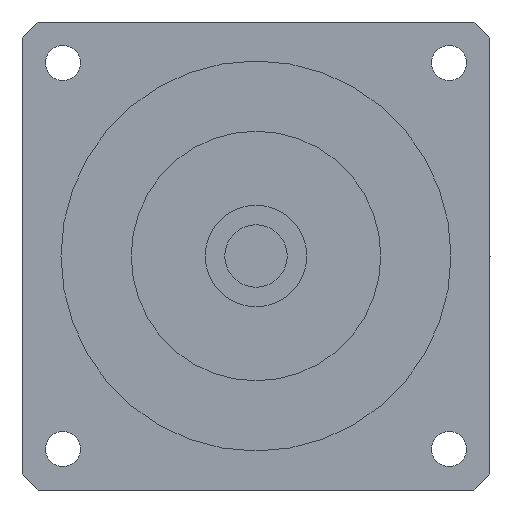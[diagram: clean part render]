
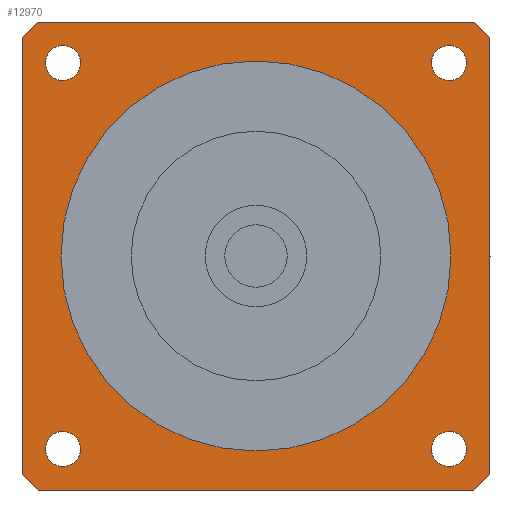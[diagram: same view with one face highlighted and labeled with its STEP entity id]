
A CAD part, left-side view. The second image highlights one B-rep face of the part: STEP entity #12970.
In plain terms, the highlighted planar face has unit normal (-1, 0, 0) as drawn and (0, 0, -1) by its records, which use the part's own axes.
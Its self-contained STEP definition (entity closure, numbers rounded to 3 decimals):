
#8790=CARTESIAN_POINT('',(24.749,22.499,-41.5));
#8800=VERTEX_POINT('',#8790);
#8830=CARTESIAN_POINT('',(24.749,24.749,-41.5));
#8840=DIRECTION('',(0.,0.,-1.));
#8850=DIRECTION('',(0.,1.,0.));
#8860=AXIS2_PLACEMENT_3D('',#8830,#8840,#8850);
#8870=CIRCLE('',#8860,2.25);
#8880=CARTESIAN_POINT('',(24.749,26.999,-41.5));
#8890=VERTEX_POINT('',#8880);
#8900=EDGE_CURVE('',#8890,#8800,#8870,.T.);
#9250=CARTESIAN_POINT('',(-22.499,24.749,-41.5));
#9260=VERTEX_POINT('',#9250);
#9290=CARTESIAN_POINT('',(-24.749,24.749,-41.5));
#9300=DIRECTION('',(0.,0.,-1.));
#9310=DIRECTION('',(-1.,0.,0.));
#9320=AXIS2_PLACEMENT_3D('',#9290,#9300,#9310);
#9330=CIRCLE('',#9320,2.25);
#9340=CARTESIAN_POINT('',(-26.999,24.749,-41.5));
#9350=VERTEX_POINT('',#9340);
#9360=EDGE_CURVE('',#9350,#9260,#9330,.T.);
#11480=CARTESIAN_POINT('',(25.,0.,-41.5));
#11490=VERTEX_POINT('',#11480);
#11520=CARTESIAN_POINT('',(0.,0.,
-41.5));
#11530=DIRECTION('',(0.,0.,1.));
#11540=DIRECTION('',(0.,1.,0.));
#11550=AXIS2_PLACEMENT_3D('',#11520,#11530,#11540);
#11560=CIRCLE('',#11550,25.);
#11570=CARTESIAN_POINT('',(0.,25.,-41.5));
#11580=VERTEX_POINT('',#11570);
#11590=EDGE_CURVE('',#11490,#11580,#11560,.T.);
#11610=CARTESIAN_POINT('',(-25.,0.,-41.5));
#11620=VERTEX_POINT('',#11610);
#11630=EDGE_CURVE('',#11580,#11620,#11560,.T.);
#11760=CARTESIAN_POINT('',(30.,30.,-41.5));
#11770=DIRECTION('',(0.,0.,-1.));
#11780=DIRECTION('',(1.,0.,0.));
#11790=AXIS2_PLACEMENT_3D('',#11760,#11770,#11780);
#11800=PLANE('',#11790);
#11810=CARTESIAN_POINT('',(-24.749,-24.749,-41.5));
#11820=DIRECTION('',(0.,0.,-1.));
#11830=DIRECTION('',(0.,-1.,0.));
#11840=AXIS2_PLACEMENT_3D('',#11810,#11820,#11830);
#11850=CIRCLE('',#11840,2.25);
#11860=CARTESIAN_POINT('',(-24.749,-26.999,-41.5));
#11870=VERTEX_POINT('',#11860);
#11880=CARTESIAN_POINT('',(-24.749,-22.499,-41.5));
#11890=VERTEX_POINT('',#11880);
#11900=EDGE_CURVE('',#11870,#11890,#11850,.T.);
#11910=ORIENTED_EDGE('',*,*,#11900,.F.);
#11920=EDGE_CURVE('',#11890,#11870,#11850,.T.);
#11930=ORIENTED_EDGE('',*,*,#11920,.F.);
#11940=EDGE_LOOP('',(#11930,#11910));
#11950=FACE_BOUND('',#11940,.T.);
#11960=ORIENTED_EDGE('',*,*,#9360,.F.);
#11970=EDGE_CURVE('',#9260,#9350,#9330,.T.);
#11980=ORIENTED_EDGE('',*,*,#11970,.F.);
#11990=EDGE_LOOP('',(#11980,#11960));
#12000=FACE_BOUND('',#11990,.T.);
#12010=ORIENTED_EDGE('',*,*,#8900,.F.);
#12020=EDGE_CURVE('',#8800,#8890,#8870,.T.);
#12030=ORIENTED_EDGE('',*,*,#12020,.F.);
#12040=EDGE_LOOP('',(#12030,#12010));
#12050=FACE_BOUND('',#12040,.T.);
#12060=EDGE_CURVE('',#11620,#11490,#11560,.T.);
#12070=ORIENTED_EDGE('',*,*,#12060,.T.);
#12080=ORIENTED_EDGE('',*,*,#11630,.T.);
#12090=ORIENTED_EDGE('',*,*,#11590,.T.);
#12100=EDGE_LOOP('',(#12090,#12080,#12070));
#12110=FACE_BOUND('',#12100,.T.);
#12120=CARTESIAN_POINT('',(-30.,30.,-41.5));
#12130=DIRECTION('',(1.,0.,0.));
#12140=VECTOR('',#12130,1000.);
#12150=LINE('',#12120,#12140);
#12160=CARTESIAN_POINT('',(-27.946,30.,-41.5));
#12170=VERTEX_POINT('',#12160);
#12180=CARTESIAN_POINT('',(27.946,30.,-41.5));
#12190=VERTEX_POINT('',#12180);
#12200=EDGE_CURVE('',#12170,#12190,#12150,.T.);
#12210=ORIENTED_EDGE('',*,*,#12200,.T.);
#12220=CARTESIAN_POINT('',(0.,0.,
-41.5));
#12230=DIRECTION('',(0.,0.,-1.));
#12240=DIRECTION('',(1.,0.,0.));
#12250=AXIS2_PLACEMENT_3D('',#12220,#12230,#12240);
#12260=CIRCLE('',#12250,41.);
#12270=CARTESIAN_POINT('',(-30.,27.946,-41.5));
#12280=VERTEX_POINT('',#12270);
#12290=EDGE_CURVE('',#12280,#12170,#12260,.T.);
#12300=ORIENTED_EDGE('',*,*,#12290,.T.);
#12310=CARTESIAN_POINT('',(-30.,-30.,-41.5));
#12320=DIRECTION('',(0.,1.,0.));
#12330=VECTOR('',#12320,1000.);
#12340=LINE('',#12310,#12330);
#12350=CARTESIAN_POINT('',(-30.,-27.946,-41.5));
#12360=VERTEX_POINT('',#12350);
#12370=EDGE_CURVE('',#12360,#12280,#12340,.T.);
#12380=ORIENTED_EDGE('',*,*,#12370,.T.);
#12390=CARTESIAN_POINT('',(0.,0.,
-41.5));
#12400=DIRECTION('',(0.,0.,-1.));
#12410=DIRECTION('',(1.,0.,0.));
#12420=AXIS2_PLACEMENT_3D('',#12390,#12400,#12410);
#12430=CIRCLE('',#12420,41.);
#12440=CARTESIAN_POINT('',(-27.946,-30.,-41.5));
#12450=VERTEX_POINT('',#12440);
#12460=EDGE_CURVE('',#12450,#12360,#12430,.T.);
#12470=ORIENTED_EDGE('',*,*,#12460,.T.);
#12480=CARTESIAN_POINT('',(30.,-30.,-41.5));
#12490=DIRECTION('',(-1.,0.,0.));
#12500=VECTOR('',#12490,1000.);
#12510=LINE('',#12480,#12500);
#12520=CARTESIAN_POINT('',(27.946,-30.,-41.5));
#12530=VERTEX_POINT('',#12520);
#12540=EDGE_CURVE('',#12530,#12450,#12510,.T.);
#12550=ORIENTED_EDGE('',*,*,#12540,.T.);
#12560=CARTESIAN_POINT('',(0.,0.,
-41.5));
#12570=DIRECTION('',(0.,0.,-1.));
#12580=DIRECTION('',(1.,0.,0.));
#12590=AXIS2_PLACEMENT_3D('',#12560,#12570,#12580);
#12600=CIRCLE('',#12590,41.);
#12610=CARTESIAN_POINT('',(30.,-27.946,-41.5));
#12620=VERTEX_POINT('',#12610);
#12630=EDGE_CURVE('',#12620,#12530,#12600,.T.);
#12640=ORIENTED_EDGE('',*,*,#12630,.T.);
#12650=CARTESIAN_POINT('',(30.,30.,-41.5));
#12660=DIRECTION('',(0.,-1.,0.));
#12670=VECTOR('',#12660,1000.);
#12680=LINE('',#12650,#12670);
#12690=CARTESIAN_POINT('',(30.,27.946,-41.5));
#12700=VERTEX_POINT('',#12690);
#12710=EDGE_CURVE('',#12700,#12620,#12680,.T.);
#12720=ORIENTED_EDGE('',*,*,#12710,.T.);
#12730=CARTESIAN_POINT('',(0.,0.,
-41.5));
#12740=DIRECTION('',(0.,0.,-1.));
#12750=DIRECTION('',(1.,0.,0.));
#12760=AXIS2_PLACEMENT_3D('',#12730,#12740,#12750);
#12770=CIRCLE('',#12760,41.);
#12780=EDGE_CURVE('',#12190,#12700,#12770,.T.);
#12790=ORIENTED_EDGE('',*,*,#12780,.T.);
#12800=EDGE_LOOP('',(#12790,#12720,#12640,#12550,#12470,#12380,#12300,
#12210));
#12810=FACE_OUTER_BOUND('',#12800,.T.);
#12820=CARTESIAN_POINT('',(24.749,-24.749,-41.5));
#12830=DIRECTION('',(0.,0.,-1.));
#12840=DIRECTION('',(1.,0.,0.));
#12850=AXIS2_PLACEMENT_3D('',#12820,#12830,#12840);
#12860=CIRCLE('',#12850,2.25);
#12870=CARTESIAN_POINT('',(26.999,-24.749,-41.5));
#12880=VERTEX_POINT('',#12870);
#12890=CARTESIAN_POINT('',(22.499,-24.749,-41.5));
#12900=VERTEX_POINT('',#12890);
#12910=EDGE_CURVE('',#12880,#12900,#12860,.T.);
#12920=ORIENTED_EDGE('',*,*,#12910,.F.);
#12930=EDGE_CURVE('',#12900,#12880,#12860,.T.);
#12940=ORIENTED_EDGE('',*,*,#12930,.F.);
#12950=EDGE_LOOP('',(#12940,#12920));
#12960=FACE_BOUND('',#12950,.T.);
#12970=ADVANCED_FACE('',(#11950,#12000,#12050,#12110,#12810,#12960),
#11800,.T.);
